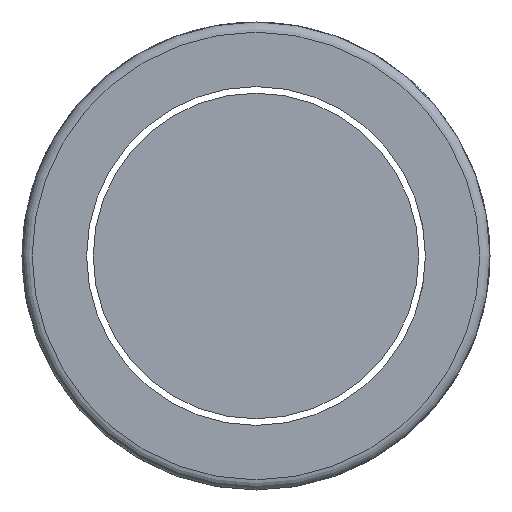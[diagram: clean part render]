
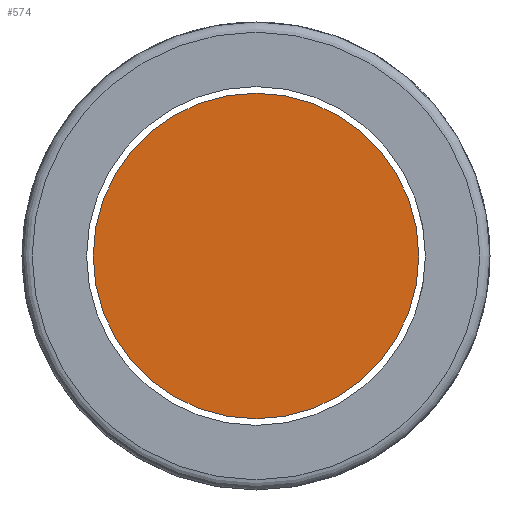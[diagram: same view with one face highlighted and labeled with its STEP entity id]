
A CAD part, left-side view. The second image highlights one B-rep face of the part: STEP entity #574.
In plain terms, the highlighted planar face has unit normal (-1, 0, 0).
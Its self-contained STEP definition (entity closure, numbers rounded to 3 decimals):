
#5 = DIRECTION ( 'NONE',  ( 0., 0., 1. ) ) ;
#269 = EDGE_CURVE ( 'NONE', #345, #345, #572, .T. ) ;
#293 = CARTESIAN_POINT ( 'NONE',  ( -270., 0., 0. ) ) ;
#320 = ORIENTED_EDGE ( 'NONE', *, *, #269, .F. ) ;
#345 = VERTEX_POINT ( 'NONE', #501 ) ;
#346 = FACE_OUTER_BOUND ( 'NONE', #391, .T. ) ;
#391 = EDGE_LOOP ( 'NONE', ( #320 ) ) ;
#440 = AXIS2_PLACEMENT_3D ( 'NONE', #293, #441, #619 ) ;
#441 = DIRECTION ( 'NONE',  ( 1., 0., 0. ) ) ;
#445 = CARTESIAN_POINT ( 'NONE',  ( -270., 0., 0. ) ) ;
#452 = DIRECTION ( 'NONE',  ( -1., 0., 0. ) ) ;
#474 = AXIS2_PLACEMENT_3D ( 'NONE', #445, #452, #5 ) ;
#501 = CARTESIAN_POINT ( 'NONE',  ( -270., 0., -16. ) ) ;
#537 = PLANE ( 'NONE',  #474 ) ;
#572 = CIRCLE ( 'NONE', #440, 16. ) ;
#574 = ADVANCED_FACE ( 'NONE', ( #346 ), #537, .T. ) ;
#619 = DIRECTION ( 'NONE',  ( 0., 0., -1. ) ) ;
